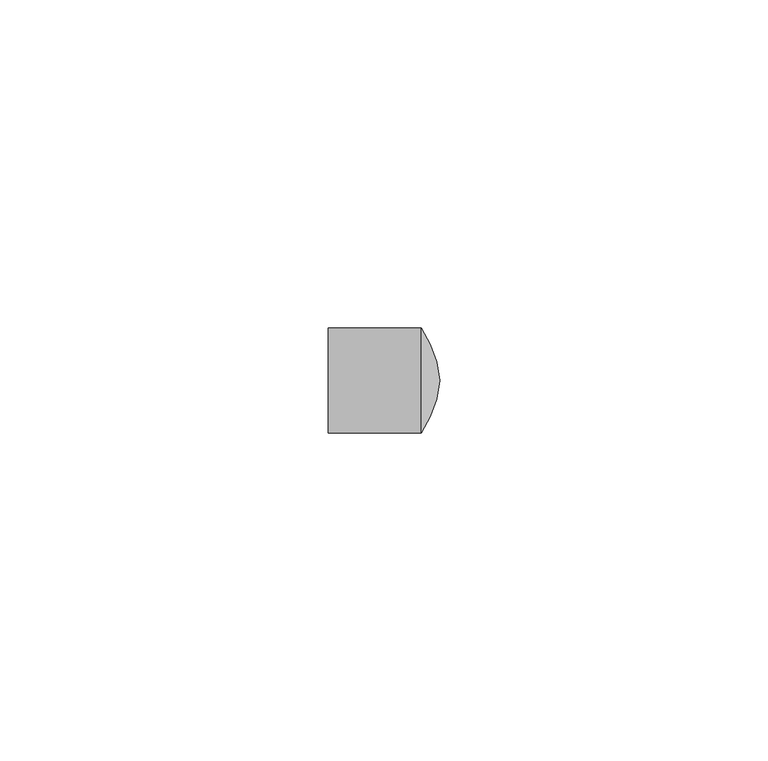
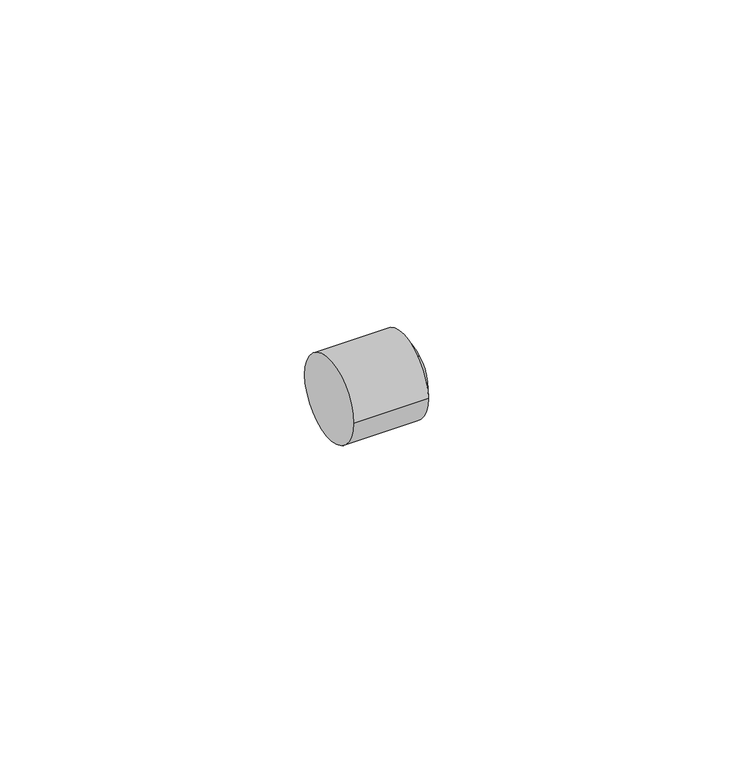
"""IFC4 building model written with IfcOpenShell, lengths in millimetres: pipe fitting geometry, 01051012 : Bouchons F."""

from ifc_helpers import new_model, si_unit, point, frame, origin, place, context, project, spatial, circle_curve, ellipse_curve, trimmed, source, transform, mapped, element, save
from ifc_brep_helpers import plane_surface, cylinder_surface, revolved_surface, advanced_brep


def pipe_fitting_635feea3(model_context):
    return source(origin(), model_context, "Body", "AdvancedBrep", [
        advanced_brep(
        [(14.1666667, 8.0, 0.0), (17.0, 0.0, 0.0), (14.1666667, -8.0, 0.0), (0.0, -8.0, 0.0), (0.0, 8.0, 0.0)],
        [
            (0, 1, circle_curve(frame((0.4965852, -1.3432233, 0.0), z_axis=(0.0, 0.0, -1.0), x_axis=(1.0, 0.0, 0.0)), 16.5579874)),
            (1, 2, circle_curve(frame((0.4965852, 1.3432233, 0.0), z_axis=(0.0, 0.0, -1.0), x_axis=(1.0, 0.0, 0.0)), 16.5579874)),
            (2, 0, circle_curve(frame((14.1666667, 0.0, 0.0), z_axis=(1.0, 0.0, 0.0), x_axis=(0.0, 1.0, 0.0)), 8.0)),
            (0, 2, circle_curve(frame((14.1666667, 0.0, 0.0), z_axis=(1.0, 0.0, 0.0), x_axis=(0.0, 1.0, 0.0)), 8.0)),
            (3, 4, circle_curve(frame((0.0, 0.0, 0.0), z_axis=(-1.0, 0.0, 0.0), x_axis=(0.0, 1.0, 0.0)), 8.0)),
            (4, 3, circle_curve(frame((0.0, 0.0, 0.0), z_axis=(-1.0, 0.0, 0.0), x_axis=(0.0, 1.0, 0.0)), 8.0)),
            (3, 2),
            (0, 4),
        ],
        [
            revolved_surface(trimmed(ellipse_curve(frame((0.4965852, -1.3432233, 0.0), z_axis=(0.0, 0.0, 1.0), x_axis=(1.0, 0.0, 0.0)), 16.5579874, 16.5579874), [point((17.0, 0.0, 0.0))], [point((14.1666667, 8.0, 0.0))], True, "CARTESIAN"), (14.1666667, 0.0, 0.0), (-1.0, 0.0, 0.0)),
            plane_surface(frame((0.0, 0.0, 0.0), z_axis=(-1.0, 0.0, 0.0), x_axis=(0.0, 0.0, 1.0))),
            cylinder_surface(frame((0.0, 0.0, 0.0), z_axis=(-1.0, 0.0, 0.0), x_axis=(0.0, 1.0, 0.0)), 8.0),
        ],
        [
            (0, [[1, 2, 3]]),
            (0, [[-1, 4, -2]]),
            (1, [[5, 6]]),
            (2, [[-5, 7, -4, 8]]),
            (2, [[-6, -8, -3, -7]]),
        ],
    ),
    ])


if __name__ == "__main__":
    model = new_model("IFC4")
    model_context = context("Model", 3, world=origin())
    ifc_project = project(units=[si_unit("LENGTHUNIT", "METRE", prefix="MILLI")], contexts=[model_context])
    site = spatial("IfcSite", under=ifc_project)
    building = spatial("IfcBuilding", under=site)
    placement = place(None, origin())
    pipe_fitting_shape = pipe_fitting_635feea3(model_context)
    element("IfcPipeFitting", 1, ObjectType="01051012 : Bouchons F", at=placement, inside=building, context=model_context, shape_type="MappedRepresentation", body=[
        mapped(pipe_fitting_shape, transform((0.0, 0.0, 0.0), x_axis=(1.0, 0.0, 0.0), y_axis=(0.0, 1.0, 0.0), z_axis=(0.0, 0.0, 1.0))),
    ])
    save(model, "model.ifc")
